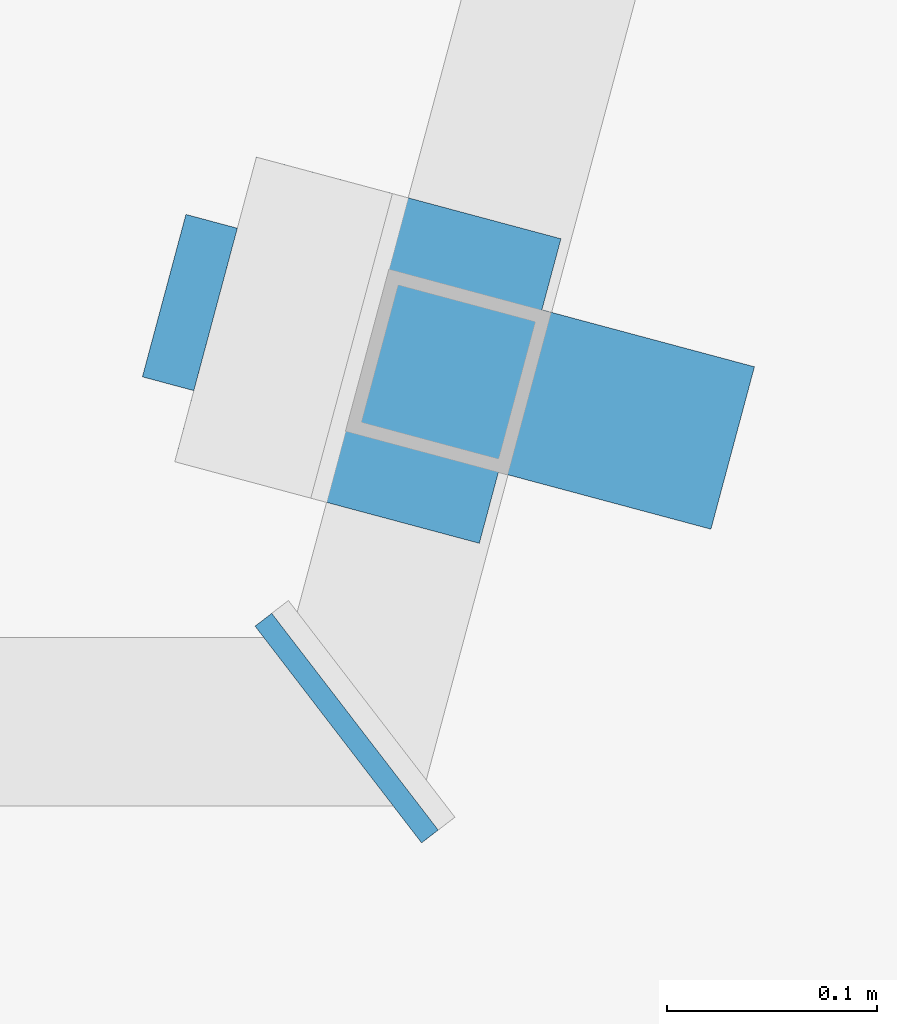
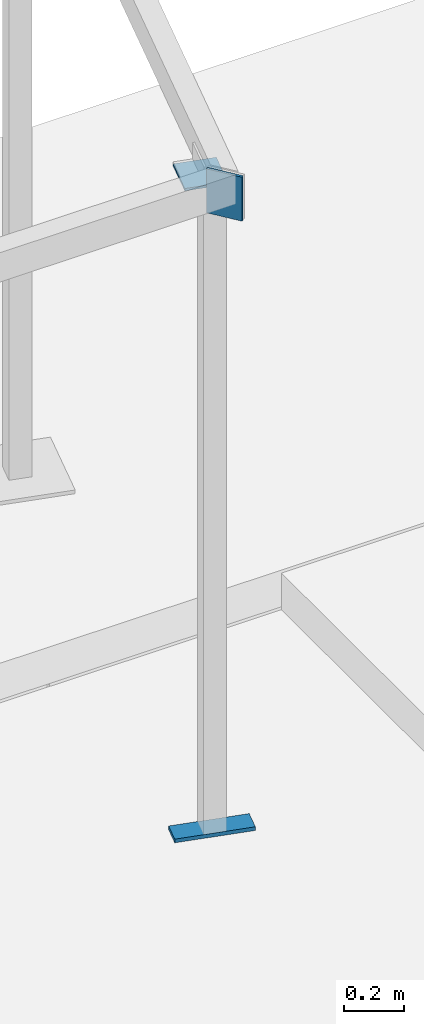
# One storey, part 8 of 19: 3 columns.
"""IFC2X3 building model written with IfcOpenShell, lengths in millimetres."""

from ifc_helpers import new_model, entity, si_unit, converted_unit, derived_unit, direction, frame, origin_with_axes, place, context, subcontext, project, spatial, faceted_brep, material, type_object, element, save


model = new_model("IFC2X3")

# Units and contexts
model_context = context("Model", 3, precision=0.01, world=frame((0.0, 4.29681676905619e-09, 0.0)), true_north=direction((4.01073788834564e-13, 1.0)))
plan_context = context("Plan", 3, precision=0.01, world=frame((0.0, 4.29681676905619e-09, 0.0)), true_north=direction((4.01073788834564e-13, 1.0)))
body_context = subcontext(model_context, "Body", "Model", "MODEL_VIEW")
ifc_project = project(units=[converted_unit("PLANEANGLEUNIT", "DEGREE", entity("IfcPositiveLengthMeasure", 0.0174532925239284), si_unit("PLANEANGLEUNIT", "RADIAN"), dimensions=[0, 0, 0, 0, 0, 0, 0]), si_unit("AREAUNIT", "SQUARE_METRE"), si_unit("LENGTHUNIT", "METRE", prefix="MILLI"), si_unit("MASSUNIT", "GRAM", prefix="KILO"), si_unit("POWERUNIT", "WATT"), si_unit("PRESSUREUNIT", "PASCAL", prefix="KILO"), si_unit("FORCEUNIT", "NEWTON", prefix="KILO"), si_unit("ELECTRICVOLTAGEUNIT", "VOLT"), si_unit("ELECTRICCURRENTUNIT", "AMPERE"), si_unit("THERMODYNAMICTEMPERATUREUNIT", "DEGREE_CELSIUS"), si_unit("TIMEUNIT", "SECOND"), si_unit("VOLUMEUNIT", "CUBIC_METRE"), derived_unit("LINEARVELOCITYUNIT", [(si_unit("LENGTHUNIT", "METRE"), 1), (si_unit("TIMEUNIT", "SECOND"), -1)]), derived_unit("VOLUMETRICFLOWRATEUNIT", [(si_unit("VOLUMEUNIT", "CUBIC_METRE"), 1), (si_unit("TIMEUNIT", "SECOND"), -1)]), derived_unit("THERMALTRANSMITTANCEUNIT", [(si_unit("POWERUNIT", "WATT"), 1), (si_unit("THERMODYNAMICTEMPERATUREUNIT", "KELVIN"), -1), (si_unit("AREAUNIT", "SQUARE_METRE"), -1)]), derived_unit("SOUNDPRESSUREUNIT", [(si_unit("PRESSUREUNIT", "PASCAL"), 1)])], contexts=[model_context, plan_context])

# Site, building, storey
site_placement = place(None, frame((0.0, -4.29681676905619e-09, 0.0), z_axis=(0.0, 0.0, 1.0), x_axis=(1.0, 0.0, 0.0)))
site = spatial("IfcSite", under=ifc_project, at=site_placement, Name="Gardermoen", CompositionType="ELEMENT")
building_placement = place(site_placement, frame((0.0, 4.29681676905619e-09, 0.0), z_axis=(0.0, 0.0, 1.0), x_axis=(1.0, 0.0, 0.0)))
building = spatial("IfcBuilding", under=site, at=building_placement, Name="TI", CompositionType="ELEMENT")
storey_placement = place(building_placement, origin_with_axes())
storey = spatial("IfcBuildingStorey", under=building, at=storey_placement, Name="F", CompositionType="ELEMENT", Elevation=0.0)

# Columns
ifc_material_1 = material(Name="STEEL/S355J0")
column_type_1 = type_object("IfcColumnType", Name="PL10*150", PredefinedType="NOTDEFINED")
column_1_placement = place(storey_placement, frame((597853.64309963, 574241.021429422, 213573.0), z_axis=(0.965925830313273, -0.258819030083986, 0.0), x_axis=(0.258819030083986, 0.965925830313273, 0.0)))
element("IfcColumn", 1, at=column_1_placement, inside=storey, type_object=column_type_1, material=ifc_material_1, Name="STÅLSØYLE", ObjectType="PL10*150", context=body_context, shape_type="Brep", body=[
    faceted_brep([(0.0, 5.0, -75.0), (0.0, 5.0, 75.0), (149.999999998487, 5.0, 75.0000000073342), (150.000000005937, 5.0, -74.9999999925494), (0.0, -5.0, 75.0), (149.999999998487, -5.0, 75.0000000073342), (0.0, -5.0, -75.0), (150.000000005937, -5.0, -74.9999999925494)], [[[0, 1, 2, 3]], [[1, 4, 5, 2]], [[4, 6, 7, 5]], [[6, 0, 3, 7]], [[5, 7, 3, 2]], [[6, 4, 1, 0]]]),
])
column_type_2 = type_object("IfcColumnType", Name="PL10*180", PredefinedType="NOTDEFINED")
column_2_placement = place(storey_placement, frame((597823.357719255, 574185.237117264, 213603.000717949), z_axis=(4.37571720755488e-05, -5.69422240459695e-05, -0.999999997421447), x_axis=(0.609324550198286, -0.792920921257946, 7.18130001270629e-05)))
element("IfcColumn", 2, at=column_2_placement, inside=storey, type_object=column_type_2, material=ifc_material_1, Name="STÅLSØYLE", ObjectType="PL10*180", context=body_context, shape_type="Brep", body=[
    faceted_brep([(2.3283064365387e-10, 5.0, -90.0), (2.3283064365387e-10, 5.0, 90.0), (129.993180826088, 4.9999999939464, 90.0000000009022), (129.993180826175, 5.00000000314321, -90.0000000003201), (0.0, -5.0, 90.0), (129.993180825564, -5.00000000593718, 90.0000000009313), (0.0, -5.0, -90.0), (129.99318082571, -4.99999999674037, -90.0000000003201)], [[[0, 1, 2, 3]], [[1, 4, 5, 2]], [[4, 6, 7, 5]], [[6, 0, 3, 7]], [[5, 7, 3, 2]], [[6, 4, 1, 0]]]),
])
ifc_material_2 = material(Name="STEEL/S355")
column_type_3 = type_object("IfcColumnType", Name="PL15*80", PredefinedType="NOTDEFINED")
column_3_placement = place(storey_placement, frame((598056.964093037, 574305.59739127, 210887.5), z_axis=(-0.25881903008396, -0.965925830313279, 0.0), x_axis=(-0.965925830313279, 0.25881903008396, 0.0)))
element("IfcColumn", 3, at=column_3_placement, inside=storey, type_object=column_type_3, material=ifc_material_2, Name="STÅLSØYLE", ObjectType="PL15*80", context=body_context, shape_type="Brep", body=[
    faceted_brep([(0.0, -7.5, 0.0), (-0.000629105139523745, -7.5, 79.9989318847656), (-0.000629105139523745, 7.5, 79.9989318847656), (0.0, 7.5, 0.0), (279.999389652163, -7.5, 79.9989318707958), (279.999389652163, 7.5, 79.9989318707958), (280.000000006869, -7.5, 2.54949554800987e-08), (280.000000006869, 7.5, 2.54949554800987e-08)], [[[0, 1, 2, 3]], [[1, 4, 5, 2]], [[4, 6, 7, 5]], [[6, 0, 3, 7]], [[5, 7, 3, 2]], [[6, 4, 1, 0]]]),
])

save(model, "model.ifc")
